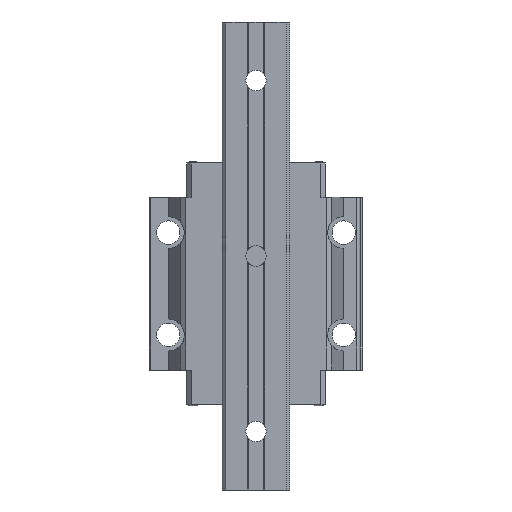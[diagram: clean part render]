
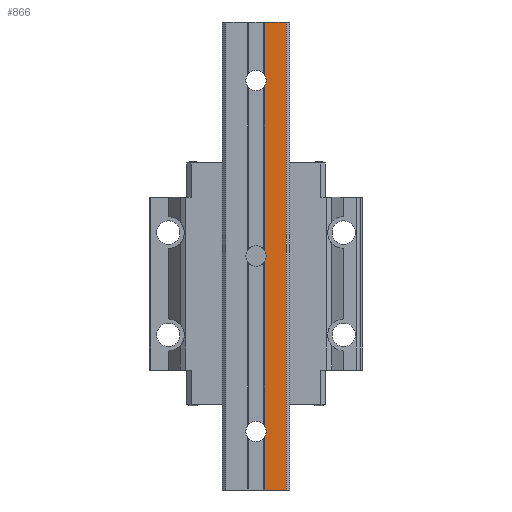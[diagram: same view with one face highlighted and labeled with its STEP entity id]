
A CAD part, front view. The second image highlights one B-rep face of the part: STEP entity #866.
In plain terms, the highlighted planar face has unit normal (0, -1, 0).
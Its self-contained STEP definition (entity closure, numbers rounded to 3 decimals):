
#102 = EDGE_CURVE ( 'NONE', #2834, #7897, #7931, .T. ) ;
#111 = EDGE_CURVE ( 'NONE', #6133, #9561, #8021, .T. ) ;
#124 = CARTESIAN_POINT ( 'NONE',  ( 3., -18., -21.803 ) ) ;
#215 = EDGE_CURVE ( 'NONE', #3306, #8139, #9134, .T. ) ;
#401 = DIRECTION ( 'NONE',  ( 0., -1., 0. ) ) ;
#425 = ORIENTED_EDGE ( 'NONE', *, *, #3284, .T. ) ;
#677 = DIRECTION ( 'NONE',  ( 1., 0., 0. ) ) ;
#706 = VECTOR ( 'NONE', #6464, 1000. ) ;
#783 = ORIENTED_EDGE ( 'NONE', *, *, #9573, .T. ) ;
#866 = ADVANCED_FACE ( 'NONE', ( #5420 ), #6175, .T. ) ;
#940 = CARTESIAN_POINT ( 'NONE',  ( 3., -18., 38.197 ) ) ;
#1002 = CARTESIAN_POINT ( 'NONE',  ( 10.3, -18., -100. ) ) ;
#1692 = EDGE_CURVE ( 'NONE', #5646, #5180, #8103, .T. ) ;
#1894 = EDGE_CURVE ( 'NONE', #9561, #10354, #5021, .T. ) ;
#1999 = DIRECTION ( 'NONE',  ( 0., 0., 1. ) ) ;
#2071 = CARTESIAN_POINT ( 'NONE',  ( 3., -18., 60. ) ) ;
#2238 = ORIENTED_EDGE ( 'NONE', *, *, #7687, .T. ) ;
#2306 = CARTESIAN_POINT ( 'NONE',  ( -36.5, -18., -100. ) ) ;
#2422 = CARTESIAN_POINT ( 'NONE',  ( 3., -18., -81.803 ) ) ;
#2496 = CARTESIAN_POINT ( 'NONE',  ( 3., -18., -18.197 ) ) ;
#2535 = VECTOR ( 'NONE', #4861, 1000. ) ;
#2544 = DIRECTION ( 'NONE',  ( 0., 0., -1. ) ) ;
#2662 = ORIENTED_EDGE ( 'NONE', *, *, #1894, .T. ) ;
#2834 = VERTEX_POINT ( 'NONE', #4636 ) ;
#2836 = CARTESIAN_POINT ( 'NONE',  ( 10.3, -18., -100. ) ) ;
#2880 = DIRECTION ( 'NONE',  ( 0., 0., -1. ) ) ;
#3090 = VERTEX_POINT ( 'NONE', #2071 ) ;
#3167 = EDGE_CURVE ( 'NONE', #3090, #10354, #5490, .T. ) ;
#3284 = EDGE_CURVE ( 'NONE', #5180, #2834, #4388, .T. ) ;
#3306 = VERTEX_POINT ( 'NONE', #6946 ) ;
#3526 = DIRECTION ( 'NONE',  ( 0., 1., 0. ) ) ;
#3621 = DIRECTION ( 'NONE',  ( 0., 0., 1. ) ) ;
#3785 = LINE ( 'NONE', #9056, #3911 ) ;
#3911 = VECTOR ( 'NONE', #6931, 1000. ) ;
#4269 = ORIENTED_EDGE ( 'NONE', *, *, #215, .T. ) ;
#4388 = LINE ( 'NONE', #8509, #4668 ) ;
#4506 = DIRECTION ( 'NONE',  ( 0., 0., -1. ) ) ;
#4585 = DIRECTION ( 'NONE',  ( 0., 1., 0. ) ) ;
#4636 = CARTESIAN_POINT ( 'NONE',  ( 3., -18., -78.197 ) ) ;
#4668 = VECTOR ( 'NONE', #6788, 1000. ) ;
#4786 = ORIENTED_EDGE ( 'NONE', *, *, #111, .T. ) ;
#4814 = CARTESIAN_POINT ( 'NONE',  ( 0., -18., -80. ) ) ;
#4861 = DIRECTION ( 'NONE',  ( 1., 0., 0. ) ) ;
#5021 = LINE ( 'NONE', #1002, #706 ) ;
#5180 = VERTEX_POINT ( 'NONE', #124 ) ;
#5254 = CARTESIAN_POINT ( 'NONE',  ( 3., -18., -100. ) ) ;
#5420 = FACE_OUTER_BOUND ( 'NONE', #7206, .T. ) ;
#5490 = LINE ( 'NONE', #8697, #9387 ) ;
#5622 = DIRECTION ( 'NONE',  ( 0., 1., 0. ) ) ;
#5646 = VERTEX_POINT ( 'NONE', #2496 ) ;
#5987 = CARTESIAN_POINT ( 'NONE',  ( 3., -18., -100. ) ) ;
#6056 = CARTESIAN_POINT ( 'NONE',  ( 0., -18., -20. ) ) ;
#6133 = VERTEX_POINT ( 'NONE', #5987 ) ;
#6175 = PLANE ( 'NONE',  #9696 ) ;
#6253 = CARTESIAN_POINT ( 'NONE',  ( 0., -18., 40. ) ) ;
#6464 = DIRECTION ( 'NONE',  ( 0., 0., 1. ) ) ;
#6788 = DIRECTION ( 'NONE',  ( 0., 0., -1. ) ) ;
#6851 = VECTOR ( 'NONE', #2544, 1000. ) ;
#6912 = VECTOR ( 'NONE', #2880, 1000. ) ;
#6931 = DIRECTION ( 'NONE',  ( 0., 0., -1. ) ) ;
#6946 = CARTESIAN_POINT ( 'NONE',  ( 3., -18., 41.803 ) ) ;
#7187 = EDGE_CURVE ( 'NONE', #8139, #5646, #8425, .T. ) ;
#7206 = EDGE_LOOP ( 'NONE', ( #2662, #7990, #783, #4269, #7608, #8878, #425, #9058, #2238, #4786 ) ) ;
#7363 = CARTESIAN_POINT ( 'NONE',  ( 3., -18., -100. ) ) ;
#7608 = ORIENTED_EDGE ( 'NONE', *, *, #7187, .T. ) ;
#7687 = EDGE_CURVE ( 'NONE', #7897, #6133, #8954, .T. ) ;
#7897 = VERTEX_POINT ( 'NONE', #2422 ) ;
#7931 = CIRCLE ( 'NONE', #9454, 3.5 ) ;
#7990 = ORIENTED_EDGE ( 'NONE', *, *, #3167, .F. ) ;
#8021 = LINE ( 'NONE', #2306, #2535 ) ;
#8103 = CIRCLE ( 'NONE', #9129, 3.5 ) ;
#8107 = AXIS2_PLACEMENT_3D ( 'NONE', #6253, #4585, #3621 ) ;
#8139 = VERTEX_POINT ( 'NONE', #940 ) ;
#8425 = LINE ( 'NONE', #10066, #6912 ) ;
#8509 = CARTESIAN_POINT ( 'NONE',  ( 3., -18., -100. ) ) ;
#8697 = CARTESIAN_POINT ( 'NONE',  ( -36.5, -18., 60. ) ) ;
#8878 = ORIENTED_EDGE ( 'NONE', *, *, #1692, .T. ) ;
#8888 = DIRECTION ( 'NONE',  ( 0., 0., 1. ) ) ;
#8954 = LINE ( 'NONE', #7363, #6851 ) ;
#9056 = CARTESIAN_POINT ( 'NONE',  ( 3., -18., -100. ) ) ;
#9058 = ORIENTED_EDGE ( 'NONE', *, *, #102, .T. ) ;
#9129 = AXIS2_PLACEMENT_3D ( 'NONE', #6056, #3526, #1999 ) ;
#9134 = CIRCLE ( 'NONE', #8107, 3.5 ) ;
#9387 = VECTOR ( 'NONE', #677, 1000. ) ;
#9454 = AXIS2_PLACEMENT_3D ( 'NONE', #4814, #5622, #8888 ) ;
#9561 = VERTEX_POINT ( 'NONE', #2836 ) ;
#9573 = EDGE_CURVE ( 'NONE', #3090, #3306, #3785, .T. ) ;
#9696 = AXIS2_PLACEMENT_3D ( 'NONE', #5254, #401, #4506 ) ;
#10066 = CARTESIAN_POINT ( 'NONE',  ( 3., -18., -100. ) ) ;
#10354 = VERTEX_POINT ( 'NONE', #10393 ) ;
#10393 = CARTESIAN_POINT ( 'NONE',  ( 10.3, -18., 60. ) ) ;
